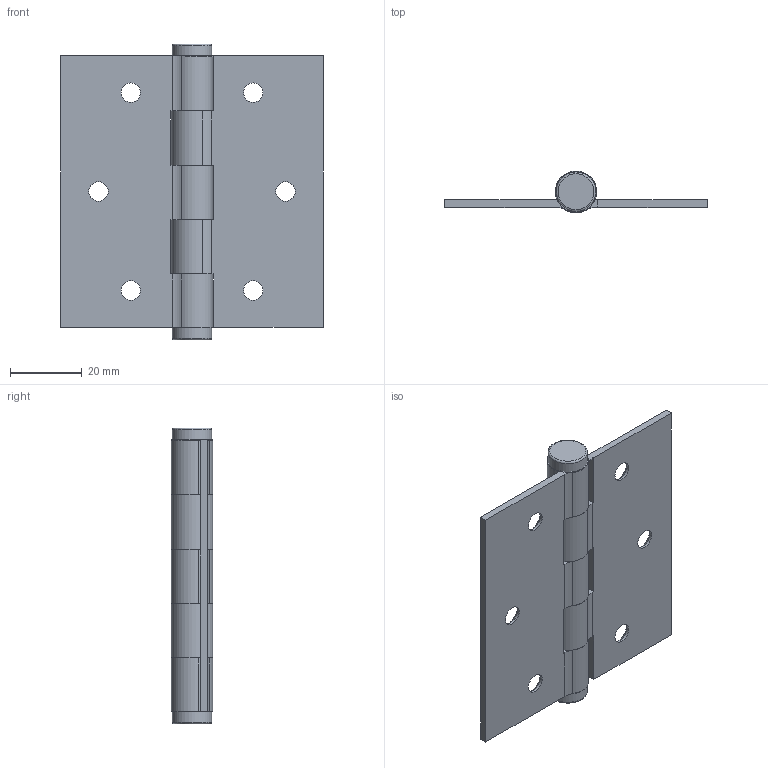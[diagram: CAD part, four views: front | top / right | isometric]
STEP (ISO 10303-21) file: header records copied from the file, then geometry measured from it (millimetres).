
FILE_DESCRIPTION(/* description */ (''),/* implementation_level */ '2;1');
FILE_NAME(/* name */ '\\NAS\db20\HD7573-20\DR_HD7573-20.stp',/* time_stamp */ '2017-08-16T15:49:46+09:00',/* author */ ('user'),/* organization */ (''),/* preprocessor_version */ 'ST-DEVELOPER v15.6',/* originating_system */ 'Autodesk Inventor 2015',/* authorisation */ '');
FILE_SCHEMA (('AUTOMOTIVE_DESIGN { 1 0 10303 214 3 1 1 }'));
Length unit declared in the file: millimetre
Products named in the file (1): DR_HD7573-20
Bounding box: 73 x 11.5 x 82.25 mm (x, y, z)
Volume: 17399.9 mm3; surface area: 17506.1 mm2
Topology: 3 solids, 3 shells, 75 faces, 199 edges, 132 vertices
Faces by surface type: plane 34, cylinder 33, cone 6, torus 2
Full cylindrical faces by diameter (mm): 5.4 x6, 7.5 x1, 11 x2
Entity records: 2258 total; most frequent: DIRECTION 402, CARTESIAN_POINT 378, ORIENTED_EDGE 352, EDGE_CURVE 176, AXIS2_PLACEMENT_3D 150, VERTEX_POINT 126, EDGE_LOOP 106, LINE 102
